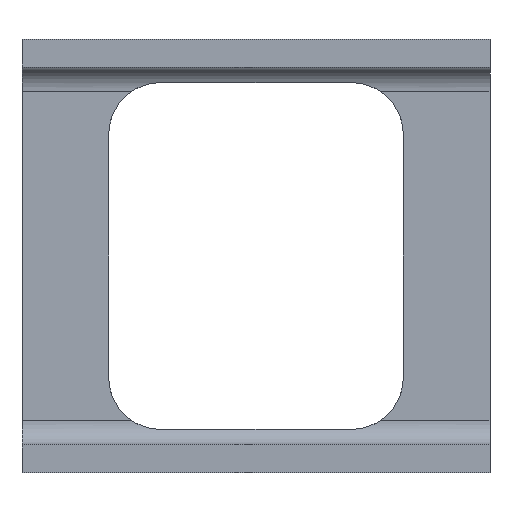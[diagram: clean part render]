
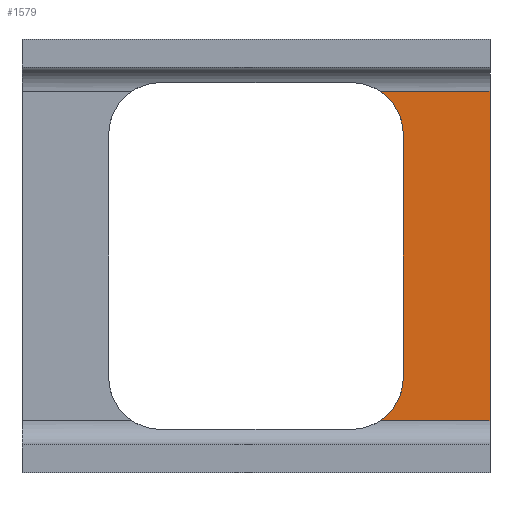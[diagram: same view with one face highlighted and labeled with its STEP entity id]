
A CAD part, left-side view. The second image highlights one B-rep face of the part: STEP entity #1579.
In plain terms, the highlighted planar face has unit normal (-1, 0, 0).
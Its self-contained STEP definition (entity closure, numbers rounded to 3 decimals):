
#43 = PLANE('',#44);
#44 = AXIS2_PLACEMENT_3D('',#45,#46,#47);
#45 = CARTESIAN_POINT('',(36.,-45.639,-13.5));
#46 = DIRECTION('',(0.,1.,0.));
#47 = DIRECTION('',(0.,0.,1.));
#186 = VERTEX_POINT('',#187);
#187 = CARTESIAN_POINT('',(40.4,-45.639,-9.5));
#206 = CYLINDRICAL_SURFACE('',#207,1.4);
#207 = AXIS2_PLACEMENT_3D('',#208,#209,#210);
#208 = CARTESIAN_POINT('',(39.,49.,-9.5));
#209 = DIRECTION('',(-0.,-1.,-0.));
#210 = DIRECTION('',(1.,0.,-0.));
#218 = EDGE_CURVE('',#186,#219,#221,.T.);
#219 = VERTEX_POINT('',#220);
#220 = CARTESIAN_POINT('',(40.4,-45.639,9.5));
#221 = SURFACE_CURVE('',#222,(#226,#232),.PCURVE_S1.);
#222 = LINE('',#223,#224);
#223 = CARTESIAN_POINT('',(40.4,-45.639,-12.2));
#224 = VECTOR('',#225,1.);
#225 = DIRECTION('',(0.,0.,1.));
#226 = PCURVE('',#43,#227);
#227 = DEFINITIONAL_REPRESENTATION('',(#228),#231);
#228 = B_SPLINE_CURVE_WITH_KNOTS('',1,(#229,#230),.UNSPECIFIED.,.F.,.F.,
  (2,2),(2.7,21.7),.PIECEWISE_BEZIER_KNOTS.);
#229 = CARTESIAN_POINT('',(4.,4.4));
#230 = CARTESIAN_POINT('',(23.,4.4));
#231 = ( GEOMETRIC_REPRESENTATION_CONTEXT(2) 
PARAMETRIC_REPRESENTATION_CONTEXT() REPRESENTATION_CONTEXT('2D SPACE',''
  ) );
#232 = PCURVE('',#233,#238);
#233 = PLANE('',#234);
#234 = AXIS2_PLACEMENT_3D('',#235,#236,#237);
#235 = CARTESIAN_POINT('',(40.4,-64.4,-10.9));
#236 = DIRECTION('',(1.,0.,0.));
#237 = DIRECTION('',(0.,0.,1.));
#238 = DEFINITIONAL_REPRESENTATION('',(#239),#242);
#239 = B_SPLINE_CURVE_WITH_KNOTS('',1,(#240,#241),.UNSPECIFIED.,.F.,.F.,
  (2,2),(2.7,21.7),.PIECEWISE_BEZIER_KNOTS.);
#240 = CARTESIAN_POINT('',(1.4,-18.761));
#241 = CARTESIAN_POINT('',(20.4,-18.761));
#242 = ( GEOMETRIC_REPRESENTATION_CONTEXT(2) 
PARAMETRIC_REPRESENTATION_CONTEXT() REPRESENTATION_CONTEXT('2D SPACE',''
  ) );
#265 = CYLINDRICAL_SURFACE('',#266,1.4);
#266 = AXIS2_PLACEMENT_3D('',#267,#268,#269);
#267 = CARTESIAN_POINT('',(39.,49.,9.5));
#268 = DIRECTION('',(-0.,-1.,-0.));
#269 = DIRECTION('',(1.,0.,-0.));
#848 = CYLINDRICAL_SURFACE('',#849,3.);
#849 = AXIS2_PLACEMENT_3D('',#850,#851,#852);
#850 = CARTESIAN_POINT('',(39.5,-37.639,-7.));
#851 = DIRECTION('',(1.,0.,0.));
#852 = DIRECTION('',(0.,0.,-1.));
#1032 = PLANE('',#1033);
#1033 = AXIS2_PLACEMENT_3D('',#1034,#1035,#1036);
#1034 = CARTESIAN_POINT('',(39.5,-40.639,10.));
#1035 = DIRECTION('',(0.,1.,0.));
#1036 = DIRECTION('',(1.,0.,0.));
#1060 = CYLINDRICAL_SURFACE('',#1061,3.);
#1061 = AXIS2_PLACEMENT_3D('',#1062,#1063,#1064);
#1062 = CARTESIAN_POINT('',(39.5,-37.639,7.));
#1063 = DIRECTION('',(1.,0.,0.));
#1064 = DIRECTION('',(0.,0.,1.));
#1438 = EDGE_CURVE('',#1439,#219,#1441,.T.);
#1439 = VERTEX_POINT('',#1440);
#1440 = CARTESIAN_POINT('',(40.4,-39.298,9.5));
#1441 = SURFACE_CURVE('',#1442,(#1446,#1453),.PCURVE_S1.);
#1442 = LINE('',#1443,#1444);
#1443 = CARTESIAN_POINT('',(40.4,49.,9.5));
#1444 = VECTOR('',#1445,1.);
#1445 = DIRECTION('',(-0.,-1.,-0.));
#1446 = PCURVE('',#265,#1447);
#1447 = DEFINITIONAL_REPRESENTATION('',(#1448),#1452);
#1448 = LINE('',#1449,#1450);
#1449 = CARTESIAN_POINT('',(0.,0.));
#1450 = VECTOR('',#1451,1.);
#1451 = DIRECTION('',(0.,1.));
#1452 = ( GEOMETRIC_REPRESENTATION_CONTEXT(2) 
PARAMETRIC_REPRESENTATION_CONTEXT() REPRESENTATION_CONTEXT('2D SPACE',''
  ) );
#1453 = PCURVE('',#233,#1454);
#1454 = DEFINITIONAL_REPRESENTATION('',(#1455),#1459);
#1455 = LINE('',#1456,#1457);
#1456 = CARTESIAN_POINT('',(20.4,-113.4));
#1457 = VECTOR('',#1458,1.);
#1458 = DIRECTION('',(-0.,1.));
#1459 = ( GEOMETRIC_REPRESENTATION_CONTEXT(2) 
PARAMETRIC_REPRESENTATION_CONTEXT() REPRESENTATION_CONTEXT('2D SPACE',''
  ) );
#1579 = ADVANCED_FACE('',(#1580),#233,.F.);
#1580 = FACE_BOUND('',#1581,.F.);
#1581 = EDGE_LOOP('',(#1582,#1583,#1606,#1630,#1651,#1673));
#1582 = ORIENTED_EDGE('',*,*,#218,.F.);
#1583 = ORIENTED_EDGE('',*,*,#1584,.F.);
#1584 = EDGE_CURVE('',#1585,#186,#1587,.T.);
#1585 = VERTEX_POINT('',#1586);
#1586 = CARTESIAN_POINT('',(40.4,-39.298,-9.5));
#1587 = SURFACE_CURVE('',#1588,(#1592,#1599),.PCURVE_S1.);
#1588 = LINE('',#1589,#1590);
#1589 = CARTESIAN_POINT('',(40.4,49.,-9.5));
#1590 = VECTOR('',#1591,1.);
#1591 = DIRECTION('',(-0.,-1.,-0.));
#1592 = PCURVE('',#233,#1593);
#1593 = DEFINITIONAL_REPRESENTATION('',(#1594),#1598);
#1594 = LINE('',#1595,#1596);
#1595 = CARTESIAN_POINT('',(1.4,-113.4));
#1596 = VECTOR('',#1597,1.);
#1597 = DIRECTION('',(-0.,1.));
#1598 = ( GEOMETRIC_REPRESENTATION_CONTEXT(2) 
PARAMETRIC_REPRESENTATION_CONTEXT() REPRESENTATION_CONTEXT('2D SPACE',''
  ) );
#1599 = PCURVE('',#206,#1600);
#1600 = DEFINITIONAL_REPRESENTATION('',(#1601),#1605);
#1601 = LINE('',#1602,#1603);
#1602 = CARTESIAN_POINT('',(-0.,0.));
#1603 = VECTOR('',#1604,1.);
#1604 = DIRECTION('',(-0.,1.));
#1605 = ( GEOMETRIC_REPRESENTATION_CONTEXT(2) 
PARAMETRIC_REPRESENTATION_CONTEXT() REPRESENTATION_CONTEXT('2D SPACE',''
  ) );
#1606 = ORIENTED_EDGE('',*,*,#1607,.F.);
#1607 = EDGE_CURVE('',#1608,#1585,#1610,.T.);
#1608 = VERTEX_POINT('',#1609);
#1609 = CARTESIAN_POINT('',(40.4,-40.639,-7.));
#1610 = SURFACE_CURVE('',#1611,(#1616,#1623),.PCURVE_S1.);
#1611 = CIRCLE('',#1612,3.);
#1612 = AXIS2_PLACEMENT_3D('',#1613,#1614,#1615);
#1613 = CARTESIAN_POINT('',(40.4,-37.639,-7.));
#1614 = DIRECTION('',(1.,0.,0.));
#1615 = DIRECTION('',(0.,0.,-1.));
#1616 = PCURVE('',#233,#1617);
#1617 = DEFINITIONAL_REPRESENTATION('',(#1618),#1622);
#1618 = CIRCLE('',#1619,3.);
#1619 = AXIS2_PLACEMENT_2D('',#1620,#1621);
#1620 = CARTESIAN_POINT('',(3.9,-26.761));
#1621 = DIRECTION('',(-1.,0.));
#1622 = ( GEOMETRIC_REPRESENTATION_CONTEXT(2) 
PARAMETRIC_REPRESENTATION_CONTEXT() REPRESENTATION_CONTEXT('2D SPACE',''
  ) );
#1623 = PCURVE('',#848,#1624);
#1624 = DEFINITIONAL_REPRESENTATION('',(#1625),#1629);
#1625 = LINE('',#1626,#1627);
#1626 = CARTESIAN_POINT('',(-6.283,0.9));
#1627 = VECTOR('',#1628,1.);
#1628 = DIRECTION('',(1.,-0.));
#1629 = ( GEOMETRIC_REPRESENTATION_CONTEXT(2) 
PARAMETRIC_REPRESENTATION_CONTEXT() REPRESENTATION_CONTEXT('2D SPACE',''
  ) );
#1630 = ORIENTED_EDGE('',*,*,#1631,.T.);
#1631 = EDGE_CURVE('',#1608,#1632,#1634,.T.);
#1632 = VERTEX_POINT('',#1633);
#1633 = CARTESIAN_POINT('',(40.4,-40.639,7.));
#1634 = SURFACE_CURVE('',#1635,(#1639,#1645),.PCURVE_S1.);
#1635 = LINE('',#1636,#1637);
#1636 = CARTESIAN_POINT('',(40.4,-40.639,-0.45));
#1637 = VECTOR('',#1638,1.);
#1638 = DIRECTION('',(0.,0.,1.));
#1639 = PCURVE('',#233,#1640);
#1640 = DEFINITIONAL_REPRESENTATION('',(#1641),#1644);
#1641 = B_SPLINE_CURVE_WITH_KNOTS('',1,(#1642,#1643),.UNSPECIFIED.,.F.,
  .F.,(2,2),(-6.55,7.45),.PIECEWISE_BEZIER_KNOTS.);
#1642 = CARTESIAN_POINT('',(3.9,-23.761));
#1643 = CARTESIAN_POINT('',(17.9,-23.761));
#1644 = ( GEOMETRIC_REPRESENTATION_CONTEXT(2) 
PARAMETRIC_REPRESENTATION_CONTEXT() REPRESENTATION_CONTEXT('2D SPACE',''
  ) );
#1645 = PCURVE('',#1032,#1646);
#1646 = DEFINITIONAL_REPRESENTATION('',(#1647),#1650);
#1647 = B_SPLINE_CURVE_WITH_KNOTS('',1,(#1648,#1649),.UNSPECIFIED.,.F.,
  .F.,(2,2),(-6.55,7.45),.PIECEWISE_BEZIER_KNOTS.);
#1648 = CARTESIAN_POINT('',(0.9,17.));
#1649 = CARTESIAN_POINT('',(0.9,3.));
#1650 = ( GEOMETRIC_REPRESENTATION_CONTEXT(2) 
PARAMETRIC_REPRESENTATION_CONTEXT() REPRESENTATION_CONTEXT('2D SPACE',''
  ) );
#1651 = ORIENTED_EDGE('',*,*,#1652,.F.);
#1652 = EDGE_CURVE('',#1439,#1632,#1653,.T.);
#1653 = SURFACE_CURVE('',#1654,(#1659,#1666),.PCURVE_S1.);
#1654 = CIRCLE('',#1655,3.);
#1655 = AXIS2_PLACEMENT_3D('',#1656,#1657,#1658);
#1656 = CARTESIAN_POINT('',(40.4,-37.639,7.));
#1657 = DIRECTION('',(1.,0.,0.));
#1658 = DIRECTION('',(0.,0.,1.));
#1659 = PCURVE('',#233,#1660);
#1660 = DEFINITIONAL_REPRESENTATION('',(#1661),#1665);
#1661 = CIRCLE('',#1662,3.);
#1662 = AXIS2_PLACEMENT_2D('',#1663,#1664);
#1663 = CARTESIAN_POINT('',(17.9,-26.761));
#1664 = DIRECTION('',(1.,0.));
#1665 = ( GEOMETRIC_REPRESENTATION_CONTEXT(2) 
PARAMETRIC_REPRESENTATION_CONTEXT() REPRESENTATION_CONTEXT('2D SPACE',''
  ) );
#1666 = PCURVE('',#1060,#1667);
#1667 = DEFINITIONAL_REPRESENTATION('',(#1668),#1672);
#1668 = LINE('',#1669,#1670);
#1669 = CARTESIAN_POINT('',(0.,0.9));
#1670 = VECTOR('',#1671,1.);
#1671 = DIRECTION('',(1.,0.));
#1672 = ( GEOMETRIC_REPRESENTATION_CONTEXT(2) 
PARAMETRIC_REPRESENTATION_CONTEXT() REPRESENTATION_CONTEXT('2D SPACE',''
  ) );
#1673 = ORIENTED_EDGE('',*,*,#1438,.T.);
